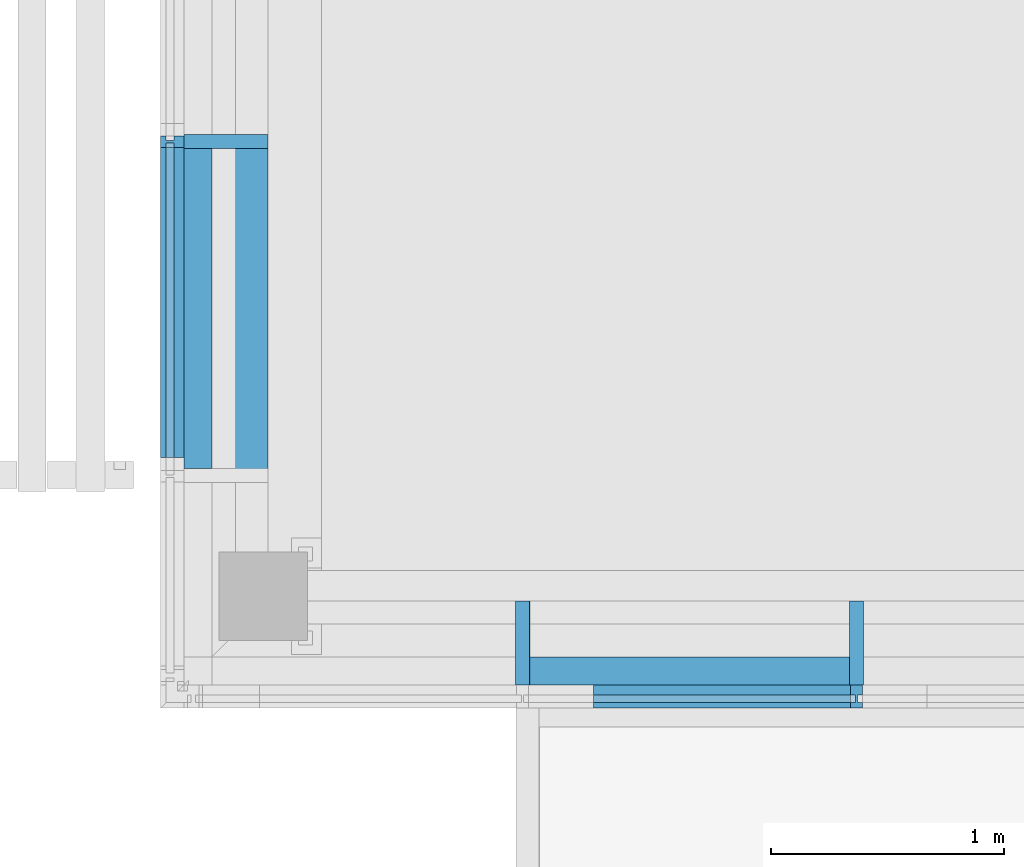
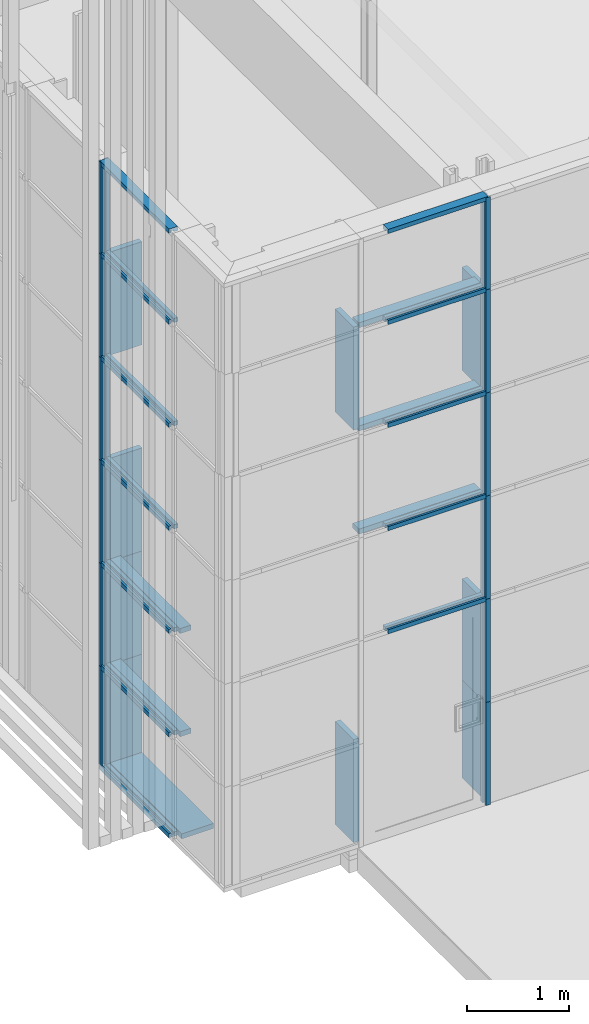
# One storey, part 8 of 260: 39 members, 2 elements without a shape of their own.
"""IFC2X3 building model written with IfcOpenShell, lengths in millimetres."""

from ifc_helpers import new_model, entity, si_unit, converted_unit, derived_unit, money_unit, direction, frame, origin_with_axes, place, context, subcontext, project, spatial, faceted_brep, source, transform, mapped, material, type_object, element, aggregate, save


model = new_model("IFC2X3")

# Units and contexts
model_context = context("Model", 3, precision=0.01, world=origin_with_axes(), true_north=direction((0.0, 1.0)))
body_context = subcontext(model_context, "Body", "Model", "MODEL_VIEW")
ifc_project = project(units=[si_unit("LENGTHUNIT", "METRE", prefix="MILLI"), si_unit("AREAUNIT", "SQUARE_METRE"), si_unit("VOLUMEUNIT", "CUBIC_METRE"), converted_unit("PLANEANGLEUNIT", "DEGREE", entity("IfcPlaneAngleMeasure", 0.0174532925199), si_unit("PLANEANGLEUNIT", "RADIAN"), dimensions=[0, 0, 0, 0, 0, 0, 0]), money_unit("EUR"), converted_unit("TIMEUNIT", "Year", entity("IfcTimeMeasure", 31556926.0), si_unit("TIMEUNIT", "SECOND"), dimensions=[0, 0, 1, 0, 0, 0, 0]), si_unit("MASSUNIT", "GRAM", prefix="KILO"), si_unit("THERMODYNAMICTEMPERATUREUNIT", "DEGREE_CELSIUS"), si_unit("LUMINOUSINTENSITYUNIT", "LUMEN"), si_unit("ENERGYUNIT", "JOULE", prefix="MEGA"), derived_unit("THERMALCONDUCTANCEUNIT", [(si_unit("POWERUNIT", "WATT"), 1), (si_unit("LENGTHUNIT", "METRE"), -1), (si_unit("THERMODYNAMICTEMPERATUREUNIT", "KELVIN"), -1)]), derived_unit("SPECIFICHEATCAPACITYUNIT", [(si_unit("ENERGYUNIT", "JOULE"), 1), (si_unit("MASSUNIT", "GRAM", prefix="KILO"), -1), (si_unit("THERMODYNAMICTEMPERATUREUNIT", "KELVIN"), -1)]), derived_unit("MASSDENSITYUNIT", [(si_unit("MASSUNIT", "GRAM", prefix="KILO"), 1), (si_unit("VOLUMEUNIT", "CUBIC_METRE"), -1)])], contexts=[model_context])

# Site, building, storey
site_placement = place(None, origin_with_axes())
site = spatial("IfcSite", under=ifc_project, at=site_placement, Name="Kolde pst 67a", CompositionType="ELEMENT")
building_placement = place(site_placement, origin_with_axes())
building = spatial("IfcBuilding", under=site, at=building_placement, Name="Riigigümnaasium", CompositionType="ELEMENT")
storey_placement = place(building_placement, origin_with_axes())
storey = spatial("IfcBuildingStorey", under=building, at=storey_placement, Name="1. korrus", CompositionType="ELEMENT", Elevation=0.0)

# Curtain wall, members
curtain_wall_type = type_object("IfcCurtainWallType", Name="Curtain Wall Type", PredefinedType="NOTDEFINED")
curtain_wall_1_placement = place(storey_placement, frame((47829.9854655, 8727.77020058, -0.000749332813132), z_axis=(0.0, 0.0, 1.0), x_axis=(1.0, 0.0, 0.0)))
curtain_wall_1 = element("IfcCurtainWall", 1, at=curtain_wall_1_placement, inside=storey, type_object=curtain_wall_type, Name="KLAASFASSAAD")
ifc_material_1 = material(Name="_METALL - alumiinium")
member_type_1 = type_object("IfcMemberType", Name="Transom Frame 50 x 100", PredefinedType="MEMBER")
shared_shape_1 = source(origin_with_axes(), body_context, "Body", "Brep", [
    faceted_brep([(5.0, -16.5, 1127.09166949), (5.0, 16.5, 1127.09166949), (25.0, 16.5, 1127.09166949), (25.0, 40.0, 1127.09166949), (-25.0, 40.0, 1127.09166949), (-25.0, 16.5, 1127.09166949), (-5.0, 16.5, 1127.09166949), (-5.0, -16.5, 1127.09166949), (-25.0, -16.5, 1127.09166949), (-25.0, -60.0, 1127.09166949), (25.0, -60.0, 1127.09166949), (25.0, -16.5, 1127.09166949), (5.0, -16.5, 25.0), (5.0, 16.5, 25.0), (25.0, 16.5, 25.0), (25.0, 40.0, 25.0), (-25.0, 40.0, 25.0), (-25.0, 16.5, 25.0), (-5.0, 16.5, 25.0), (-5.0, -16.5, 25.0), (-25.0, -16.5, 25.0), (-25.0, -60.0, 25.0), (25.0, -60.0, 25.0), (25.0, -16.5, 25.0)], [[[0, 1, 2, 3, 4, 5, 6, 7, 8, 9, 10, 11]], [[0, 12, 13, 1]], [[1, 13, 14, 2]], [[14, 15, 3, 2]], [[4, 3, 15, 16]], [[17, 5, 4, 16]], [[5, 17, 18, 6]], [[7, 6, 18, 19]], [[8, 7, 19, 20]], [[8, 20, 21, 9]], [[10, 9, 21, 22]], [[11, 10, 22, 23]], [[11, 23, 12, 0]], [[13, 12, 23, 22, 21, 20, 19, 18, 17, 16, 15, 14]]]),
])
member_1_placement = place(curtain_wall_1_placement, frame((2940.65725263, -1457.77089664, 3690.00074933), z_axis=(-1.0, 2.70881142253e-07, 0.0), x_axis=(0.0, 0.0, 1.0)))
member_1 = element("IfcMember", 2, at=member_1_placement, type_object=member_type_1, material=ifc_material_1, Name="RF RAAM HOR-703", ObjectType="MEMBER", context=body_context, shape_type="MappedRepresentation", body=[
    mapped(shared_shape_1, transform((0.0, 0.0, 0.0), x_axis=(-1.0, 0.0, 0.0), y_axis=(0.0, -1.0, 0.0), z_axis=(0.0, 0.0, 1.0))),
])
member_2_placement = place(curtain_wall_1_placement, frame((2940.65725263, -1457.77089664, 4920.00074933), z_axis=(-1.0, 2.70881142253e-07, 0.0), x_axis=(0.0, 0.0, 1.0)))
member_2 = element("IfcMember", 3, at=member_2_placement, type_object=member_type_1, material=ifc_material_1, Name="RF RAAM HOR-684", ObjectType="MEMBER", context=body_context, shape_type="MappedRepresentation", body=[
    mapped(shared_shape_1, transform((0.0, 0.0, 0.0), x_axis=(-1.0, 0.0, 0.0), y_axis=(0.0, -1.0, 0.0), z_axis=(0.0, 0.0, 1.0))),
])
member_3_placement = place(curtain_wall_1_placement, frame((2940.65725263, -1457.77089664, 6150.00074933), z_axis=(-1.0, 2.70881142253e-07, 0.0), x_axis=(0.0, 0.0, 1.0)))
member_3 = element("IfcMember", 4, at=member_3_placement, type_object=member_type_1, material=ifc_material_1, Name="RF RAAM HOR-690", ObjectType="MEMBER", context=body_context, shape_type="MappedRepresentation", body=[
    mapped(shared_shape_1, transform((0.0, 0.0, 0.0), x_axis=(-1.0, 0.0, 0.0), y_axis=(0.0, -1.0, 0.0), z_axis=(0.0, 0.0, 1.0))),
])
member_4_placement = place(curtain_wall_1_placement, frame((2940.65725263, -1457.77089664, 2460.00074933), z_axis=(-1.0, 2.70881142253e-07, 0.0), x_axis=(0.0, 0.0, 1.0)))
member_4 = element("IfcMember", 5, at=member_4_placement, type_object=member_type_1, material=ifc_material_1, Name="RF RAAM HOR-503", ObjectType="MEMBER", context=body_context, shape_type="MappedRepresentation", body=[
    mapped(shared_shape_1, transform((0.0, 0.0, 0.0), x_axis=(-1.0, 0.0, 0.0), y_axis=(0.0, -1.0, 0.0), z_axis=(0.0, 0.0, 1.0))),
])
member_type_2 = type_object("IfcMemberType", Name="Mullion Frame 50 x 100", PredefinedType="MEMBER")
shared_shape_2 = source(origin_with_axes(), body_context, "Body", "Brep", [
    faceted_brep([(5.0, -16.5, 1230.00046362), (5.0, 16.5, 1230.00046362), (25.0, 16.5, 1230.00046362), (25.0, 40.0, 1230.00046362), (-25.0, 40.0, 1230.00046362), (-25.0, 16.5, 1230.00046362), (-5.0, 16.5, 1230.00046362), (-5.0, -16.5, 1230.00046362), (-25.0, -16.5, 1230.00046362), (-25.0, -60.0, 1230.00046362), (25.0, -60.0, 1230.00046362), (25.0, -16.5, 1230.00046362), (5.0, -16.5, 50.0), (5.0, 16.5, 50.0), (25.0, 16.5, 50.0), (25.0, 40.0, 50.0), (-25.0, 40.0, 50.0), (-25.0, 16.5, 50.0), (-5.0, 16.5, 50.0), (-5.0, -16.5, 50.0), (-25.0, -16.5, 50.0), (-25.0, -60.0, 50.0), (25.0, -60.0, 50.0), (25.0, -16.5, 50.0)], [[[0, 1, 2, 3, 4, 5, 6, 7, 8, 9, 10, 11]], [[0, 12, 13, 1]], [[1, 13, 14, 2]], [[14, 15, 3, 2]], [[4, 3, 15, 16]], [[17, 5, 4, 16]], [[5, 17, 18, 6]], [[7, 6, 18, 19]], [[8, 7, 19, 20]], [[8, 20, 21, 9]], [[10, 9, 21, 22]], [[11, 10, 22, 23]], [[11, 23, 12, 0]], [[13, 12, 23, 22, 21, 20, 19, 18, 17, 16, 15, 14]]]),
])
member_5_placement = place(curtain_wall_1_placement, frame((-8.46711145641e-07, 928.791070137, 0.0), z_axis=(0.0, -1.72586103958e-09, 1.0), x_axis=(9.11615455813e-10, -1.0, -1.72586103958e-09)))
member_5 = element("IfcMember", 6, at=member_5_placement, type_object=member_type_2, material=ifc_material_1, Name="RF RAAM VERT-989", ObjectType="MEMBER", context=body_context, shape_type="MappedRepresentation", body=[
    mapped(shared_shape_2, transform((0.0, 0.0, 0.0), x_axis=(-1.0, 0.0, -1.72586103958e-09), y_axis=(0.0, -1.0, 0.0), z_axis=(-1.72586103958e-09, 0.0, 1.0))),
])
shared_shape_3 = source(origin_with_axes(), body_context, "Body", "Brep", [
    faceted_brep([(5.0, -16.5, 1230.0), (5.0, 16.5, 1230.0), (25.0, 16.5, 1230.0), (25.0, 40.0, 1230.0), (-25.0, 40.0, 1230.0), (-25.0, 16.5, 1230.0), (-5.0, 16.5, 1230.0), (-5.0, -16.5, 1230.0), (-25.0, -16.5, 1230.0), (-25.0, -60.0, 1230.0), (25.0, -60.0, 1230.0), (25.0, -16.5, 1230.0), (5.0, -16.5, 0.0), (5.0, 16.5, 0.0), (25.0, 16.5, 0.0), (25.0, 40.0, 0.0), (-25.0, 40.0, 0.0), (-25.0, 16.5, 0.0), (-5.0, 16.5, 0.0), (-5.0, -16.5, 0.0), (-25.0, -16.5, 0.0), (-25.0, -60.0, 0.0), (25.0, -60.0, 0.0), (25.0, -16.5, 0.0)], [[[0, 1, 2, 3, 4, 5, 6, 7, 8, 9, 10, 11]], [[0, 12, 13, 1]], [[1, 13, 14, 2]], [[14, 15, 3, 2]], [[3, 15, 16, 4]], [[17, 5, 4, 16]], [[5, 17, 18, 6]], [[7, 6, 18, 19]], [[8, 7, 19, 20]], [[8, 20, 21, 9]], [[9, 21, 22, 10]], [[11, 10, 22, 23]], [[11, 23, 12, 0]], [[13, 12, 23, 22, 21, 20, 19, 18, 17, 16, 15, 14]]]),
])
member_6_placement = place(curtain_wall_1_placement, frame((-8.46711145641e-07, 928.791068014, 4920.00074933), z_axis=(0.0, 0.0, 1.0), x_axis=(9.11615455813e-10, -1.0, 0.0)))
member_6 = element("IfcMember", 7, at=member_6_placement, type_object=member_type_2, material=ifc_material_1, Name="RF RAAM VERT-868", ObjectType="MEMBER", context=body_context, shape_type="MappedRepresentation", body=[
    mapped(shared_shape_3, transform((0.0, 0.0, 0.0), x_axis=(-1.0, 0.0, 0.0), y_axis=(0.0, -1.0, 0.0), z_axis=(0.0, 0.0, 1.0))),
])
member_7_placement = place(curtain_wall_1_placement, frame((2940.65725263, -1457.77089664, 4920.00074933), z_axis=(0.0, 0.0, 1.0), x_axis=(1.0, -2.70881141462e-07, 0.0)))
member_7 = element("IfcMember", 8, at=member_7_placement, type_object=member_type_2, material=ifc_material_1, Name="RF RAAM VERT-880", ObjectType="MEMBER", context=body_context, shape_type="MappedRepresentation", body=[
    mapped(shared_shape_3, transform((0.0, 0.0, 0.0), x_axis=(-1.0, -2.70881141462e-07, 0.0), y_axis=(2.70881141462e-07, -1.0, 0.0), z_axis=(0.0, 0.0, 1.0))),
])
member_8_placement = place(curtain_wall_1_placement, frame((-8.46711145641e-07, 928.791068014, 1230.00074933), z_axis=(0.0, 0.0, 1.0), x_axis=(9.11615455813e-10, -1.0, 0.0)))
member_8 = element("IfcMember", 9, at=member_8_placement, type_object=member_type_2, material=ifc_material_1, Name="RF RAAM VERT-985", ObjectType="MEMBER", context=body_context, shape_type="MappedRepresentation", body=[
    mapped(shared_shape_3, transform((0.0, 0.0, 0.0), x_axis=(-1.0, 0.0, 0.0), y_axis=(0.0, -1.0, 0.0), z_axis=(0.0, 0.0, 1.0))),
])
member_9_placement = place(curtain_wall_1_placement, frame((-8.46711145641e-07, 928.791068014, 2460.00074933), z_axis=(0.0, 0.0, 1.0), x_axis=(9.11615455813e-10, -1.0, 0.0)))
member_9 = element("IfcMember", 10, at=member_9_placement, type_object=member_type_2, material=ifc_material_1, Name="RF RAAM VERT-986", ObjectType="MEMBER", context=body_context, shape_type="MappedRepresentation", body=[
    mapped(shared_shape_3, transform((0.0, 0.0, 0.0), x_axis=(-1.0, 0.0, 0.0), y_axis=(0.0, -1.0, 0.0), z_axis=(0.0, 0.0, 1.0))),
])
member_10_placement = place(curtain_wall_1_placement, frame((-8.46711145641e-07, 928.791068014, 3690.00074933), z_axis=(0.0, 0.0, 1.0), x_axis=(9.11615455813e-10, -1.0, 0.0)))
member_10 = element("IfcMember", 11, at=member_10_placement, type_object=member_type_2, material=ifc_material_1, Name="RF RAAM VERT-987", ObjectType="MEMBER", context=body_context, shape_type="MappedRepresentation", body=[
    mapped(shared_shape_3, transform((0.0, 0.0, 0.0), x_axis=(-1.0, 0.0, 0.0), y_axis=(0.0, -1.0, 0.0), z_axis=(0.0, 0.0, 1.0))),
])
member_11_placement = place(curtain_wall_1_placement, frame((2940.65725263, -1457.77089664, 2460.00074933), z_axis=(0.0, 0.0, 1.0), x_axis=(1.0, -2.70881141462e-07, 0.0)))
member_11 = element("IfcMember", 12, at=member_11_placement, type_object=member_type_2, material=ifc_material_1, Name="RF RAAM VERT-995", ObjectType="MEMBER", context=body_context, shape_type="MappedRepresentation", body=[
    mapped(shared_shape_3, transform((0.0, 0.0, 0.0), x_axis=(-1.0, -2.70881141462e-07, 0.0), y_axis=(2.70881141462e-07, -1.0, 0.0), z_axis=(0.0, 0.0, 1.0))),
])
member_12_placement = place(curtain_wall_1_placement, frame((2940.65725263, -1457.77089664, 3690.00074933), z_axis=(0.0, 0.0, 1.0), x_axis=(1.0, -2.70881141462e-07, 0.0)))
member_12 = element("IfcMember", 13, at=member_12_placement, type_object=member_type_2, material=ifc_material_1, Name="RF RAAM VERT-004", ObjectType="MEMBER", context=body_context, shape_type="MappedRepresentation", body=[
    mapped(shared_shape_3, transform((0.0, 0.0, 0.0), x_axis=(-1.0, -2.70881141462e-07, 0.0), y_axis=(2.70881141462e-07, -1.0, 0.0), z_axis=(0.0, 0.0, 1.0))),
])
member_13_placement = place(curtain_wall_1_placement, frame((2940.65722411, -1457.77089664, 1230.00074933), z_axis=(2.31871064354e-08, 0.0, 1.0), x_axis=(1.0, -2.70881141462e-07, -2.31871064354e-08)))
member_13 = element("IfcMember", 14, at=member_13_placement, type_object=member_type_2, material=ifc_material_1, Name="RF RAAM VERT-010", ObjectType="MEMBER", context=body_context, shape_type="MappedRepresentation", body=[
    mapped(shared_shape_3, transform((0.0, 0.0, 0.0), x_axis=(-1.0, -2.70881141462e-07, -2.31871064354e-08), y_axis=(2.70881141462e-07, -1.0, 0.0), z_axis=(-2.31871064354e-08, 0.0, 1.0))),
])
member_14_placement = place(curtain_wall_1_placement, frame((2940.65723123, -1457.77089664, 0.000719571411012), z_axis=(-5.78588003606e-09, 0.0, 1.0), x_axis=(1.0, -2.70881141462e-07, 5.78588003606e-09)))
member_14 = element("IfcMember", 15, at=member_14_placement, type_object=member_type_2, material=ifc_material_1, Name="RF RAAM VERT-011", ObjectType="MEMBER", context=body_context, shape_type="MappedRepresentation", body=[
    mapped(shared_shape_3, transform((0.0, 0.0, 0.0), x_axis=(-1.0, -2.70881141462e-07, 5.78588003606e-09), y_axis=(2.70881141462e-07, -1.0, 0.0), z_axis=(5.78588003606e-09, 0.0, 1.0))),
])
shared_shape_4 = source(origin_with_axes(), body_context, "Body", "Brep", [
    faceted_brep([(5.0, -16.5, 1327.75198335), (5.0, 16.5, 1327.75198335), (25.0, 16.5, 1327.75198335), (25.0, 40.0, 1327.75198335), (-25.0, 40.0, 1327.75198335), (-25.0, 16.5, 1327.75198335), (-5.0, 16.5, 1327.75198335), (-5.0, -16.5, 1327.75198335), (-25.0, -16.5, 1327.75198335), (-25.0, -60.0, 1327.75198335), (25.0, -60.0, 1327.75198335), (25.0, -16.5, 1327.75198335), (5.0, -16.5, 0.0), (5.0, 16.5, 0.0), (25.0, 16.5, 0.0), (25.0, 40.0, 0.0), (-25.0, 40.0, 0.0), (-25.0, 16.5, 0.0), (-5.0, 16.5, 0.0), (-5.0, -16.5, 0.0), (-25.0, -16.5, 0.0), (-25.0, -60.0, 0.0), (25.0, -60.0, 0.0), (25.0, -16.5, 0.0)], [[[0, 1, 2, 3, 4, 5, 6, 7, 8, 9, 10, 11]], [[0, 12, 13, 1]], [[1, 13, 14, 2]], [[14, 15, 3, 2]], [[3, 15, 16, 4]], [[17, 5, 4, 16]], [[5, 17, 18, 6]], [[7, 6, 18, 19]], [[8, 7, 19, 20]], [[8, 20, 21, 9]], [[9, 21, 22, 10]], [[11, 10, 22, 23]], [[11, 23, 12, 0]], [[13, 12, 23, 22, 21, 20, 19, 18, 17, 16, 15, 14]]]),
])
member_15_placement = place(curtain_wall_1_placement, frame((3.86478404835e-07, -423.960915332, 4920.00074933), z_axis=(-9.11615407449e-10, 1.0, 0.0), x_axis=(0.0, 0.0, 1.0)))
member_15 = element("IfcMember", 16, at=member_15_placement, type_object=member_type_1, material=ifc_material_1, Name="RF RAAM HOR-823", ObjectType="MEMBER", context=body_context, shape_type="MappedRepresentation", body=[
    mapped(shared_shape_4, transform((0.0, 0.0, 0.0), x_axis=(-1.0, 0.0, 0.0), y_axis=(0.0, -1.0, 9.11615284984e-10), z_axis=(0.0, 9.11615284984e-10, 1.0))),
])
member_16_placement = place(curtain_wall_1_placement, frame((3.86478404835e-07, -423.960915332, 6150.00074933), z_axis=(-9.11615407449e-10, 1.0, 0.0), x_axis=(0.0, 0.0, 1.0)))
member_16 = element("IfcMember", 17, at=member_16_placement, type_object=member_type_1, material=ifc_material_1, Name="RF RAAM HOR-824", ObjectType="MEMBER", context=body_context, shape_type="MappedRepresentation", body=[
    mapped(shared_shape_4, transform((0.0, 0.0, 0.0), x_axis=(-1.0, 0.0, 0.0), y_axis=(0.0, -1.0, 9.11615284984e-10), z_axis=(0.0, 9.11615284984e-10, 1.0))),
])
member_17_placement = place(curtain_wall_1_placement, frame((3.86478404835e-07, -423.960915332, 1230.00074933), z_axis=(-9.11615407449e-10, 1.0, 0.0), x_axis=(0.0, 0.0, 1.0)))
member_17 = element("IfcMember", 18, at=member_17_placement, type_object=member_type_1, material=ifc_material_1, Name="RF RAAM HOR-940", ObjectType="MEMBER", context=body_context, shape_type="MappedRepresentation", body=[
    mapped(shared_shape_4, transform((0.0, 0.0, 0.0), x_axis=(-1.0, 0.0, 0.0), y_axis=(0.0, -1.0, 9.11615284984e-10), z_axis=(0.0, 9.11615284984e-10, 1.0))),
])
member_18_placement = place(curtain_wall_1_placement, frame((3.86478404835e-07, -423.960915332, 2460.00074933), z_axis=(-9.11615407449e-10, 1.0, 0.0), x_axis=(0.0, 0.0, 1.0)))
member_18 = element("IfcMember", 19, at=member_18_placement, type_object=member_type_1, material=ifc_material_1, Name="RF RAAM HOR-941", ObjectType="MEMBER", context=body_context, shape_type="MappedRepresentation", body=[
    mapped(shared_shape_4, transform((0.0, 0.0, 0.0), x_axis=(-1.0, 0.0, 0.0), y_axis=(0.0, -1.0, 9.11615284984e-10), z_axis=(0.0, 9.11615284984e-10, 1.0))),
])
member_19_placement = place(curtain_wall_1_placement, frame((3.86478404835e-07, -423.960915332, 3690.00074933), z_axis=(-9.11615407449e-10, 1.0, 0.0), x_axis=(0.0, 0.0, 1.0)))
member_19 = element("IfcMember", 20, at=member_19_placement, type_object=member_type_1, material=ifc_material_1, Name="RF RAAM HOR-942", ObjectType="MEMBER", context=body_context, shape_type="MappedRepresentation", body=[
    mapped(shared_shape_4, transform((0.0, 0.0, 0.0), x_axis=(-1.0, 0.0, 0.0), y_axis=(0.0, -1.0, 9.11615284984e-10), z_axis=(0.0, 9.11615284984e-10, 1.0))),
])
member_type_3 = type_object("IfcMemberType", Name="Boundary Frame 50 x 100", PredefinedType="MEMBER")
shared_shape_5 = source(origin_with_axes(), body_context, "Body", "Brep", [
    faceted_brep([(-30.0, -16.5, 1352.75197298), (-50.0, -16.5, 1352.75197298), (-50.0, -60.0, 1352.75197298), (0.0, -60.0, 1352.75197298), (0.0, 40.0, 1352.75197298), (-50.0, 40.0, 1352.75197298), (-50.0, 16.5, 1352.75197298), (-30.0, 16.5, 1352.75197298), (-30.0, -16.5, 0.0), (-50.0, -16.5, 0.0), (-50.0, -60.0, 0.0), (0.0, -60.0, 0.0), (0.0, 40.0, 0.0), (-50.0, 40.0, 0.0), (-50.0, 16.5, 0.0), (-30.0, 16.5, 0.0)], [[[0, 1, 2, 3, 4, 5, 6, 7]], [[0, 8, 9, 1]], [[9, 10, 2, 1]], [[10, 11, 3, 2]], [[11, 12, 4, 3]], [[12, 13, 5, 4]], [[6, 5, 13, 14]], [[14, 15, 7, 6]], [[7, 15, 8, 0]], [[8, 15, 14, 13, 12, 11, 10, 9]]]),
])
member_20_placement = place(curtain_wall_1_placement, frame((3.86478404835e-07, -423.960915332, 0.0), z_axis=(-9.11615406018e-10, 1.0, 0.0), x_axis=(0.0, 0.0, 1.0)))
member_20 = element("IfcMember", 21, at=member_20_placement, type_object=member_type_3, material=ifc_material_1, Name="RF RAAM SERV-554", ObjectType="MEMBER", context=body_context, shape_type="MappedRepresentation", body=[
    mapped(shared_shape_5, transform((0.0, 0.0, 0.0), x_axis=(-1.0, 0.0, 0.0), y_axis=(0.0, -1.0, 9.11615283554e-10), z_axis=(0.0, 9.11615283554e-10, 1.0))),
])
member_21_placement = place(curtain_wall_1_placement, frame((-8.46711145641e-07, 928.791070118, 7259.99994321), z_axis=(9.11615406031e-10, -1.0, 0.0), x_axis=(0.0, 0.0, -1.0)))
member_21 = element("IfcMember", 22, at=member_21_placement, type_object=member_type_3, material=ifc_material_1, Name="RF RAAM SERV-581", ObjectType="MEMBER", context=body_context, shape_type="MappedRepresentation", body=[
    mapped(shared_shape_5, transform((0.0, 0.0, 0.0), x_axis=(-1.0, 0.0, 0.0), y_axis=(0.0, -1.0, -9.11615406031e-10), z_axis=(0.0, -9.11615406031e-10, 1.0))),
])
shared_shape_6 = source(origin_with_axes(), body_context, "Body", "Brep", [
    faceted_brep([(5.0, -16.5, 1099.99900713), (5.0, 16.5, 1099.99900713), (25.0, 16.5, 1099.99900713), (25.0, 40.0, 1099.99900713), (-25.0, 40.0, 1099.99900713), (-25.0, 16.5, 1099.99900713), (-5.0, 16.5, 1099.99900713), (-5.0, -16.5, 1099.99900713), (-25.0, -16.5, 1099.99900713), (-25.0, -60.0, 1099.99900713), (25.0, -60.0, 1099.99900713), (25.0, -16.5, 1099.99900713), (5.0, -16.5, -4.55870452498e-07), (5.0, 16.5, -4.55870452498e-07), (25.0, 16.5, -4.55870452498e-07), (25.0, 40.0, -4.55870452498e-07), (-25.0, 40.0, -4.55870452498e-07), (-25.0, 16.5, -4.55870452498e-07), (-5.0, 16.5, -4.55870452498e-07), (-5.0, -16.5, -4.55870452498e-07), (-25.0, -16.5, -4.55870452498e-07), (-25.0, -60.0, -4.55870452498e-07), (25.0, -60.0, -4.55870452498e-07), (25.0, -16.5, -4.55870452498e-07)], [[[0, 1, 2, 3, 4, 5, 6, 7, 8, 9, 10, 11]], [[0, 12, 13, 1]], [[1, 13, 14, 2]], [[14, 15, 3, 2]], [[3, 15, 16, 4]], [[17, 5, 4, 16]], [[5, 17, 18, 6]], [[7, 6, 18, 19]], [[8, 7, 19, 20]], [[8, 20, 21, 9]], [[9, 21, 22, 10]], [[11, 10, 22, 23]], [[11, 23, 12, 0]], [[13, 12, 23, 22, 21, 20, 19, 18, 17, 16, 15, 14]]]),
])
member_22_placement = place(curtain_wall_1_placement, frame((2940.65725263, -1457.77089664, 6150.00074933), z_axis=(2.82488102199e-09, 0.0, 1.0), x_axis=(1.0, -2.70881141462e-07, -2.82488102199e-09)))
member_22 = element("IfcMember", 23, at=member_22_placement, type_object=member_type_2, material=ifc_material_1, Name="RF RAAM VERT-027", ObjectType="MEMBER", context=body_context, shape_type="MappedRepresentation", body=[
    mapped(shared_shape_6, transform((0.0, 0.0, 0.0), x_axis=(-1.0, -2.70881141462e-07, -2.82488102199e-09), y_axis=(2.70881141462e-07, -1.0, 0.0), z_axis=(-2.82488102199e-09, 0.0, 1.0))),
])
member_23_placement = place(curtain_wall_1_placement, frame((-8.46711145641e-07, 928.791068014, 6150.00074933), z_axis=(0.0, 1.8953661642e-09, 1.0), x_axis=(9.11615455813e-10, -1.0, 1.8953661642e-09)))
member_23 = element("IfcMember", 24, at=member_23_placement, type_object=member_type_2, material=ifc_material_1, Name="RF RAAM VERT-044", ObjectType="MEMBER", context=body_context, shape_type="MappedRepresentation", body=[
    mapped(shared_shape_6, transform((0.0, 0.0, 0.0), x_axis=(-1.0, 0.0, 1.8953661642e-09), y_axis=(0.0, -1.0, 0.0), z_axis=(1.8953661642e-09, 0.0, 1.0))),
])
shared_shape_7 = source(origin_with_axes(), body_context, "Body", "Brep", [
    faceted_brep([(-30.0, -16.5, 1127.09167065), (-50.0, -16.5, 1127.09167065), (-50.0, -60.0, 1127.09167065), (0.0, -60.0, 1127.09167065), (0.0, 40.0, 1127.09167065), (-50.0, 40.0, 1127.09167065), (-50.0, 16.5, 1127.09167065), (-30.0, 16.5, 1127.09167065), (-30.0, -16.5, 0.0), (-50.0, -16.5, 0.0), (-50.0, -60.0, 0.0), (0.0, -60.0, 0.0), (0.0, 40.0, 0.0), (-50.0, 40.0, 0.0), (-50.0, 16.5, 0.0), (-30.0, 16.5, 0.0)], [[[0, 1, 2, 3, 4, 5, 6, 7]], [[0, 8, 9, 1]], [[9, 10, 2, 1]], [[10, 11, 3, 2]], [[11, 12, 4, 3]], [[12, 13, 5, 4]], [[6, 5, 13, 14]], [[14, 15, 7, 6]], [[7, 15, 8, 0]], [[8, 15, 14, 13, 12, 11, 10, 9]]]),
])
member_24_placement = place(curtain_wall_1_placement, frame((1813.56558433, -1457.77059134, 7259.99997954), z_axis=(1.0, -2.70881142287e-07, -7.69025696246e-08), x_axis=(-7.69025696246e-08, 0.0, -1.0)))
member_24 = element("IfcMember", 25, at=member_24_placement, type_object=member_type_3, material=ifc_material_1, Name="RF RAAM SERV-543", ObjectType="MEMBER", context=body_context, shape_type="MappedRepresentation", body=[
    mapped(shared_shape_7, transform((0.0, 0.0, 0.0), x_axis=(-1.0, 0.0, -7.69025696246e-08), y_axis=(0.0, -1.0, 0.0), z_axis=(-7.69025696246e-08, 0.0, 1.0))),
])
aggregate(curtain_wall_1, [member_1, member_2, member_3, member_4, member_6, member_15, member_16, member_7, member_8, member_17, member_18, member_9, member_19, member_10, member_5, member_20, member_11, member_12, member_22, member_23, member_24, member_21, member_13, member_14])

curtain_wall_2_placement = place(storey_placement, frame((47889.9854796, 7778.28071079, -0.000681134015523), z_axis=(0.0, 0.0, 1.0), x_axis=(1.0, 0.0, 0.0)))
curtain_wall_2 = element("IfcCurtainWall", 26, at=curtain_wall_2_placement, inside=storey, type_object=curtain_wall_type, Name="Klaasfassaadi puitkarkass")
ifc_material_2 = material(Name="_KANDETARIND - liimpuit vastavalt EK osale")
member_type_4 = type_object("IfcMemberType", Name="Transom Frame 60 x 120", PredefinedType="MEMBER")
shared_shape_8 = source(origin_with_axes(), body_context, "Body", "Brep", [
    faceted_brep([(-30.0, 0.0, 30.0), (-30.0, -120.0, 30.0), (-30.0, -120.0, 1400.0), (-30.0, 0.0, 1400.0), (30.0, 0.0, 30.0), (30.0, -120.0, 30.0), (30.0, -120.0, 1400.0), (30.0, 0.0, 1400.0)], [[[0, 1, 2, 3]], [[1, 0, 4, 5]], [[1, 5, 6, 2]], [[2, 6, 7, 3]], [[4, 0, 3, 7]], [[5, 4, 7, 6]]]),
])
member_25_placement = place(curtain_wall_2_placement, frame((-4.81769291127e-07, 448.280635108, 1230.00068113), z_axis=(-1.07471824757e-09, 1.0, 0.0), x_axis=(0.0, 0.0, 1.0)))
member_25 = element("IfcMember", 27, at=member_25_placement, type_object=member_type_4, material=ifc_material_2, Name="RF RAAM HOR-249", ObjectType="MEMBER", context=body_context, shape_type="MappedRepresentation", body=[
    mapped(shared_shape_8, transform((0.0, 0.0, 0.0), x_axis=(-1.0, 0.0, 0.0), y_axis=(0.0, -1.0, 1.07471812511e-09), z_axis=(0.0, 1.07471812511e-09, 1.0))),
])
member_26_placement = place(curtain_wall_2_placement, frame((-4.81769291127e-07, 448.280635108, 2460.00068113), z_axis=(-1.07471824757e-09, 1.0, 0.0), x_axis=(0.0, 0.0, 1.0)))
member_26 = element("IfcMember", 28, at=member_26_placement, type_object=member_type_4, material=ifc_material_2, Name="RF RAAM HOR-249", ObjectType="MEMBER", context=body_context, shape_type="MappedRepresentation", body=[
    mapped(shared_shape_8, transform((0.0, 0.0, 0.0), x_axis=(-1.0, 0.0, 0.0), y_axis=(0.0, -1.0, 1.07471812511e-09), z_axis=(0.0, 1.07471812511e-09, 1.0))),
])
member_27_placement = place(curtain_wall_2_placement, frame((2880.65727801, -448.281389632, 3690.00068113), z_axis=(-1.0, 2.61927578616e-07, 0.0), x_axis=(0.0, 0.0, 1.0)))
member_27 = element("IfcMember", 29, at=member_27_placement, type_object=member_type_4, material=ifc_material_2, Name="RF RAAM HOR-249", ObjectType="MEMBER", context=body_context, shape_type="MappedRepresentation", body=[
    mapped(shared_shape_8, transform((0.0, 0.0, 0.0), x_axis=(-1.0, 0.0, 0.0), y_axis=(0.0, -1.0, 0.0), z_axis=(0.0, 0.0, 1.0))),
])
member_28_placement = place(curtain_wall_2_placement, frame((2880.65727801, -448.281389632, 4920.00068113), z_axis=(-1.0, 2.61927578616e-07, 0.0), x_axis=(0.0, 0.0, 1.0)))
member_28 = element("IfcMember", 30, at=member_28_placement, type_object=member_type_4, material=ifc_material_2, Name="RF RAAM HOR-249", ObjectType="MEMBER", context=body_context, shape_type="MappedRepresentation", body=[
    mapped(shared_shape_8, transform((0.0, 0.0, 0.0), x_axis=(-1.0, 0.0, 0.0), y_axis=(0.0, -1.0, 0.0), z_axis=(0.0, 0.0, 1.0))),
])
member_29_placement = place(curtain_wall_2_placement, frame((2880.65727801, -448.281389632, 6150.00068113), z_axis=(-1.0, 2.61927578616e-07, 0.0), x_axis=(0.0, 0.0, 1.0)))
member_29 = element("IfcMember", 31, at=member_29_placement, type_object=member_type_4, material=ifc_material_2, Name="RF RAAM HOR-249", ObjectType="MEMBER", context=body_context, shape_type="MappedRepresentation", body=[
    mapped(shared_shape_8, transform((0.0, 0.0, 0.0), x_axis=(-1.0, 0.0, 0.0), y_axis=(0.0, -1.0, 0.0), z_axis=(0.0, 0.0, 1.0))),
])
member_type_5 = type_object("IfcMemberType", Name="Mullion Frame 60 x 360", PredefinedType="MEMBER")
shared_shape_9 = source(origin_with_axes(), body_context, "Body", "Brep", [
    faceted_brep([(-30.0, 0.0, 60.0), (-30.0, -360.0, 60.0), (-30.0, -360.0, 1230.0002536), (-30.0, 0.0, 1230.0002536), (30.0, 0.0, 60.0), (30.0, -360.0, 60.0), (30.0, -360.0, 1230.0002536), (30.0, 0.0, 1230.0002536)], [[[0, 1, 2, 3]], [[1, 0, 4, 5]], [[1, 5, 6, 2]], [[2, 6, 7, 3]], [[4, 0, 3, 7]], [[5, 4, 7, 6]]]),
])
member_30_placement = place(curtain_wall_2_placement, frame((-2.01861638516e-06, 1878.28063511, 0.0), z_axis=(0.0, 0.0, 1.0), x_axis=(1.07471576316e-09, -1.0, 0.0)))
member_30 = element("IfcMember", 32, at=member_30_placement, type_object=member_type_5, material=ifc_material_2, Name="RF RAAM VERT-457", ObjectType="MEMBER", context=body_context, shape_type="MappedRepresentation", body=[
    mapped(shared_shape_9, transform((0.0, 0.0, 0.0), x_axis=(-1.0, 0.0, 0.0), y_axis=(0.0, -1.0, 0.0), z_axis=(0.0, 0.0, 1.0))),
])
member_31_placement = place(curtain_wall_2_placement, frame((2880.65727801, -448.281389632, 0.000492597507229), z_axis=(0.0, 0.0, 1.0), x_axis=(1.0, -2.61927578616e-07, 0.0)))
member_31 = element("IfcMember", 33, at=member_31_placement, type_object=member_type_5, material=ifc_material_2, Name="RF RAAM VERT-010", ObjectType="MEMBER", context=body_context, shape_type="MappedRepresentation", body=[
    mapped(shared_shape_9, transform((0.0, 0.0, 0.0), x_axis=(-1.0, -2.61927578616e-07, 0.0), y_axis=(2.61927578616e-07, -1.0, 0.0), z_axis=(0.0, 0.0, 1.0))),
])
shared_shape_10 = source(origin_with_axes(), body_context, "Body", "Brep", [
    faceted_brep([(-30.0, -360.0, 0.0), (-30.0, -360.0, 1230.0), (-30.0, 0.0, 1230.0), (-30.0, 0.0, 0.0), (30.0, -360.0, 0.0), (30.0, -360.0, 1230.0), (30.0, 0.0, 1230.0), (30.0, 0.0, 0.0)], [[[0, 1, 2, 3]], [[4, 5, 1, 0]], [[1, 5, 6, 2]], [[3, 2, 6, 7]], [[0, 3, 7, 4]], [[7, 6, 5, 4]]]),
])
member_32_placement = place(curtain_wall_2_placement, frame((-2.01861638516e-06, 1878.28063511, 1230.00068113), z_axis=(0.0, 0.0, 1.0), x_axis=(1.07471576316e-09, -1.0, 0.0)))
member_32 = element("IfcMember", 34, at=member_32_placement, type_object=member_type_5, material=ifc_material_2, Name="RF RAAM VERT-457", ObjectType="MEMBER", context=body_context, shape_type="MappedRepresentation", body=[
    mapped(shared_shape_10, transform((0.0, 0.0, 0.0), x_axis=(-1.0, 0.0, 0.0), y_axis=(0.0, -1.0, 0.0), z_axis=(0.0, 0.0, 1.0))),
])
member_33_placement = place(curtain_wall_2_placement, frame((-2.01861638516e-06, 1878.28063511, 2460.00068113), z_axis=(0.0, 0.0, 1.0), x_axis=(1.07471576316e-09, -1.0, 0.0)))
member_33 = element("IfcMember", 35, at=member_33_placement, type_object=member_type_5, material=ifc_material_2, Name="RF RAAM VERT-457", ObjectType="MEMBER", context=body_context, shape_type="MappedRepresentation", body=[
    mapped(shared_shape_10, transform((0.0, 0.0, 0.0), x_axis=(-1.0, 0.0, 0.0), y_axis=(0.0, -1.0, 0.0), z_axis=(0.0, 0.0, 1.0))),
])
member_34_placement = place(curtain_wall_2_placement, frame((-2.01861638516e-06, 1878.28063511, 4920.00068113), z_axis=(0.0, 0.0, 1.0), x_axis=(1.07471576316e-09, -1.0, 0.0)))
member_34 = element("IfcMember", 36, at=member_34_placement, type_object=member_type_5, material=ifc_material_2, Name="RF RAAM VERT-457", ObjectType="MEMBER", context=body_context, shape_type="MappedRepresentation", body=[
    mapped(shared_shape_10, transform((0.0, 0.0, 0.0), x_axis=(-1.0, 0.0, 0.0), y_axis=(0.0, -1.0, 0.0), z_axis=(0.0, 0.0, 1.0))),
])
member_35_placement = place(curtain_wall_2_placement, frame((2880.65727801, -448.281389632, 4920.00068113), z_axis=(0.0, 0.0, 1.0), x_axis=(1.0, -2.61927578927e-07, 0.0)))
member_35 = element("IfcMember", 37, at=member_35_placement, type_object=member_type_5, material=ifc_material_2, Name="RF RAAM VERT-457", ObjectType="MEMBER", context=body_context, shape_type="MappedRepresentation", body=[
    mapped(shared_shape_10, transform((0.0, 0.0, 0.0), x_axis=(-1.0, -2.61927578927e-07, 0.0), y_axis=(2.61927578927e-07, -1.0, 0.0), z_axis=(0.0, 0.0, 1.0))),
])
member_36_placement = place(curtain_wall_2_placement, frame((1450.65727801, -448.281015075, 4920.00068113), z_axis=(0.0, 0.0, 1.0), x_axis=(1.0, -2.61927578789e-07, 0.0)))
member_36 = element("IfcMember", 38, at=member_36_placement, type_object=member_type_5, material=ifc_material_2, Name="RF RAAM VERT-457", ObjectType="MEMBER", context=body_context, shape_type="MappedRepresentation", body=[
    mapped(shared_shape_10, transform((0.0, 0.0, 0.0), x_axis=(-1.0, -2.61927578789e-07, 0.0), y_axis=(2.61927578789e-07, -1.0, 0.0), z_axis=(0.0, 0.0, 1.0))),
])
member_37_placement = place(curtain_wall_2_placement, frame((1451.56560002, -448.281015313, 0.000492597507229), z_axis=(0.0, 0.0, 1.0), x_axis=(1.0, -2.61927578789e-07, 0.0)))
member_37 = element("IfcMember", 39, at=member_37_placement, type_object=member_type_5, material=ifc_material_2, Name="RF RAAM VERT-975", ObjectType="MEMBER", context=body_context, shape_type="MappedRepresentation", body=[
    mapped(shared_shape_10, transform((0.0, 0.0, 0.0), x_axis=(-1.0, -2.61927578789e-07, 0.0), y_axis=(2.61927578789e-07, -1.0, 0.0), z_axis=(0.0, 0.0, 1.0))),
])
shared_shape_11 = source(origin_with_axes(), body_context, "Body", "Brep", [
    faceted_brep([(-30.0, -360.0, 0.0), (-30.0, -360.0, 1200.0), (-30.0, 0.0, 1200.0), (-30.0, 0.0, 0.0), (30.0, -360.0, 0.0), (30.0, -360.0, 1200.0), (30.0, 0.0, 1200.0), (30.0, 0.0, 0.0)], [[[0, 1, 2, 3]], [[4, 5, 1, 0]], [[1, 5, 6, 2]], [[3, 2, 6, 7]], [[0, 3, 7, 4]], [[7, 6, 5, 4]]]),
])
member_38_placement = place(curtain_wall_2_placement, frame((2880.65727801, -448.281389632, 1230.00068113), z_axis=(0.0, 0.0, 1.0), x_axis=(1.0, -2.61927578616e-07, 0.0)))
member_38 = element("IfcMember", 40, at=member_38_placement, type_object=member_type_5, material=ifc_material_2, Name="RF RAAM VERT-009", ObjectType="MEMBER", context=body_context, shape_type="MappedRepresentation", body=[
    mapped(shared_shape_11, transform((0.0, 0.0, 0.0), x_axis=(-1.0, -2.61927578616e-07, 0.0), y_axis=(2.61927578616e-07, -1.0, 0.0), z_axis=(0.0, 0.0, 1.0))),
])
member_type_6 = type_object("IfcMemberType", Name="Boundary Frame 60 x 360", PredefinedType="MEMBER")
shared_shape_12 = source(origin_with_axes(), body_context, "Body", "Brep", [
    faceted_brep([(-60.0, -360.0, 0.0), (-60.0, -360.0, 1430.0), (-60.0, 0.0, 1430.0), (-60.0, 0.0, 0.0), (0.0, -360.0, 0.0), (0.0, -360.0, 1430.0), (0.0, 0.0, 1430.0), (0.0, 0.0, 0.0)], [[[0, 1, 2, 3]], [[4, 5, 1, 0]], [[1, 5, 6, 2]], [[3, 2, 6, 7]], [[0, 3, 7, 4]], [[7, 6, 5, 4]]]),
])
member_39_placement = place(curtain_wall_2_placement, frame((-4.81769291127e-07, 448.280635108, 0.0), z_axis=(-1.07471824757e-09, 1.0, 0.0), x_axis=(0.0, 0.0, 1.0)))
member_39 = element("IfcMember", 41, at=member_39_placement, type_object=member_type_6, material=ifc_material_2, Name="RF RAAM SERV-881", ObjectType="MEMBER", context=body_context, shape_type="MappedRepresentation", body=[
    mapped(shared_shape_12, transform((0.0, 0.0, 0.0), x_axis=(-1.0, 0.0, 0.0), y_axis=(0.0, -1.0, 1.07471812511e-09), z_axis=(0.0, 1.07471812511e-09, 1.0))),
])
aggregate(curtain_wall_2, [member_30, member_32, member_33, member_34, member_39, member_25, member_26, member_35, member_36, member_27, member_28, member_29, member_37, member_38, member_31])

save(model, "model.ifc")
